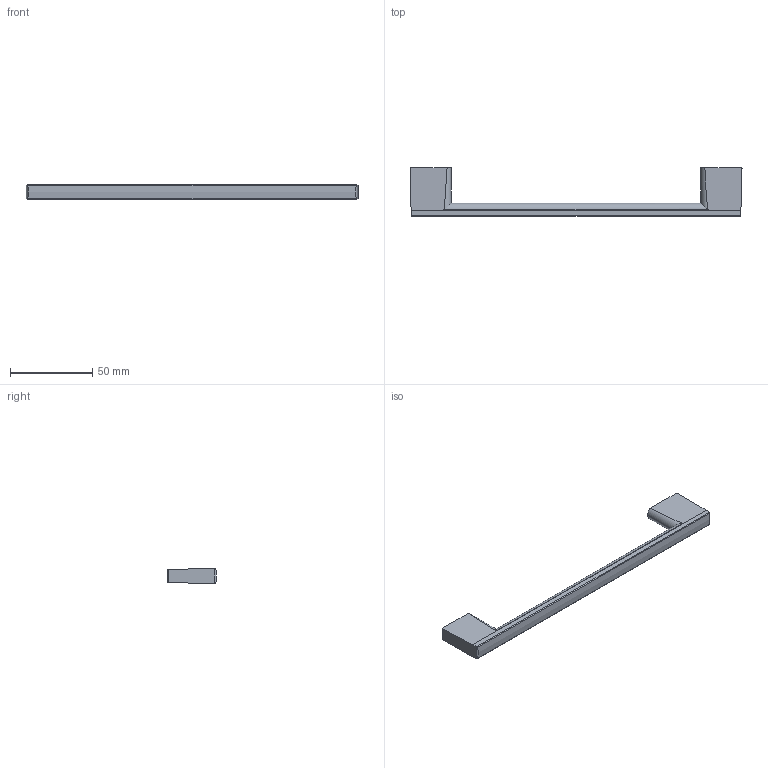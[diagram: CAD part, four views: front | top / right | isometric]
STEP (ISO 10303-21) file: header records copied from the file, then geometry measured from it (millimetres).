
FILE_DESCRIPTION( ( '' ), '1' );
FILE_NAME( 'C:/Documents and Settings/Sachin/Desktop/Sheet 10_1/stp/9995772.stp', '2013-10-22T08:50:36', ( '' ), ( '' ), ' ', ' ', ' ' );
FILE_SCHEMA( ( 'CONFIG_CONTROL_DESIGN' ) );
Length unit declared in the file: millimetre
Products named in the file (1): 1
Bounding box: 201.27 x 29.6 x 9 mm (x, y, z)
Volume: 21139.8 mm3; surface area: 9371.5 mm2
Topology: 1 solids, 1 shells, 34 faces, 86 edges, 58 vertices
Faces by surface type: cylinder 21, plane 13
Entity records: 1202 total; most frequent: CARTESIAN_POINT 319, DIRECTION 180, ORIENTED_EDGE 172, EDGE_CURVE 86, AXIS2_PLACEMENT_3D 71, VERTEX_POINT 58, EDGE_LOOP 38, LINE 38
